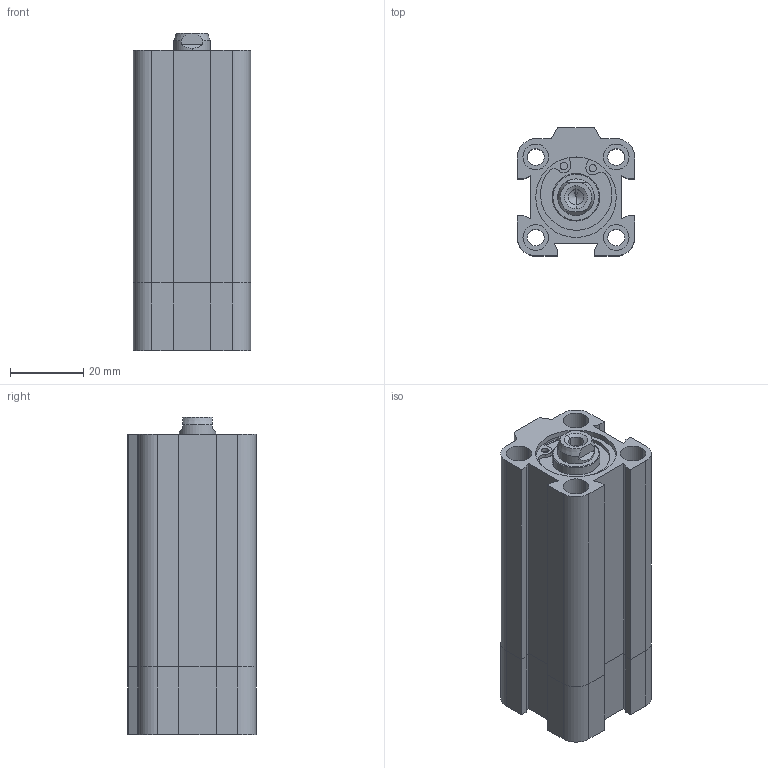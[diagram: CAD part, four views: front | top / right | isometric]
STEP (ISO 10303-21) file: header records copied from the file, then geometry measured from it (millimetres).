
FILE_DESCRIPTION (( 'STEP AP214' ), '1' );
FILE_NAME ('WSAC-020-0050 (MDMY).STEP', '2016-10-10T08:57:58', ( 'Hidtek' ), ( '' ), 'SwSTEP 2.0', 'SolidWorks 2016', '' );
FILE_SCHEMA (( 'AUTOMOTIVE_DESIGN' ));
Length unit declared in the file: millimetre
Products named in the file (3): Group1^WSAC-020-0050 (MDMY); Group2^WSAC-020-0050 (MDMY); WSAC-020-0050 (MDMY)
Assembly tree (2 placements, depth 2):
  WSAC-020-0050 (MDMY)
    Group1^WSAC-020-0050 (MDMY)
    Group2^WSAC-020-0050 (MDMY)
Bounding box: 32 x 35 x 86.58 mm (x, y, z)
Volume: 56509.7 mm3; surface area: 30189.2 mm2
Topology: 5 solids, 5 shells, 284 faces, 731 edges, 483 vertices
Faces by surface type: plane 175, cylinder 97, cone 12
Entity records: 9832 total; most frequent: CARTESIAN_POINT 1613, DIRECTION 1491, ORIENTED_EDGE 1458, EDGE_CURVE 729, VECTOR 521, LINE 521, AXIS2_PLACEMENT_3D 485, VERTEX_POINT 483
